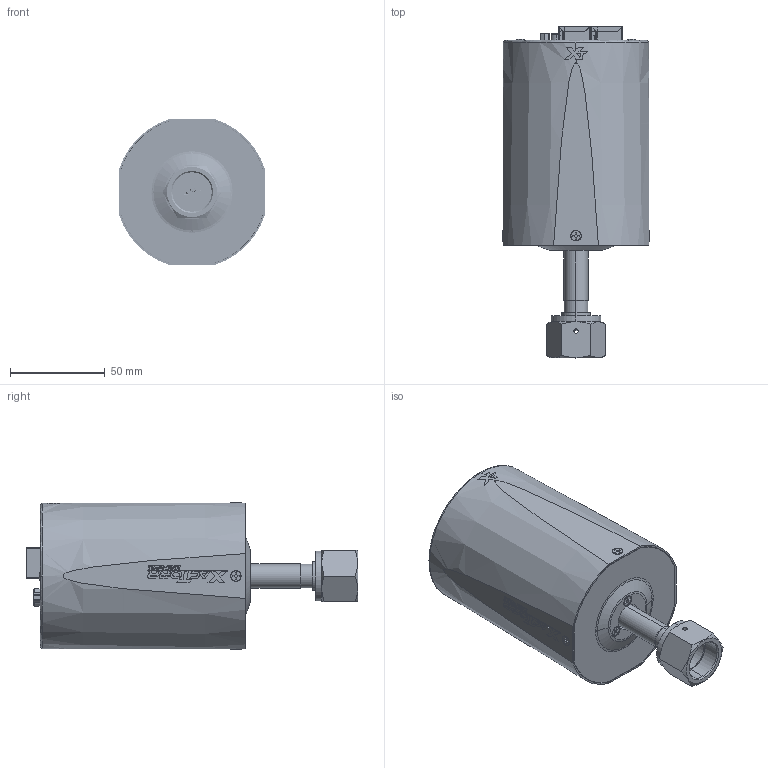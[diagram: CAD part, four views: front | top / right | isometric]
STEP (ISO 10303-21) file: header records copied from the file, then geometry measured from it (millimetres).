
FILE_DESCRIPTION (( 'STEP AP214' ), '1' );
FILE_NAME ('DMXA10xxxEx4xxxx.STEP', '2024-12-16T22:37:36', ( '' ), ( '' ), 'SwSTEP 2.0', 'SolidWorks 2023', '' );
FILE_SCHEMA (( 'AUTOMOTIVE_DESIGN' ));
Length unit declared in the file: inch
Products named in the file (1): DMXA10xxxEx4xxxx
Bounding box: 77.51 x 175.62 x 77.51 mm (x, y, z)
Volume: 73985.4 mm3; surface area: 107165.9 mm2
Topology: 3 solids, 24 shells, 6816 faces, 18760 edges, 12353 vertices
Faces by surface type: plane 4654, cylinder 1273, bspline 580, cone 239, torus 70
Entity records: 260246 total; most frequent: CARTESIAN_POINT 94903, ORIENTED_EDGE 37520, DIRECTION 28465, EDGE_CURVE 18760, VECTOR 13505, LINE 13505, VERTEX_POINT 12353, EDGE_LOOP 7545
